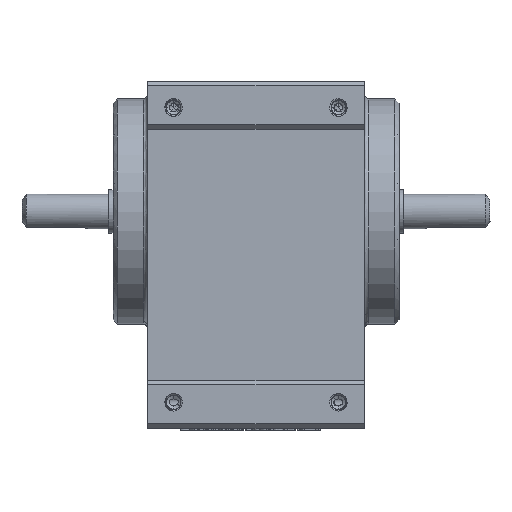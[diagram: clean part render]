
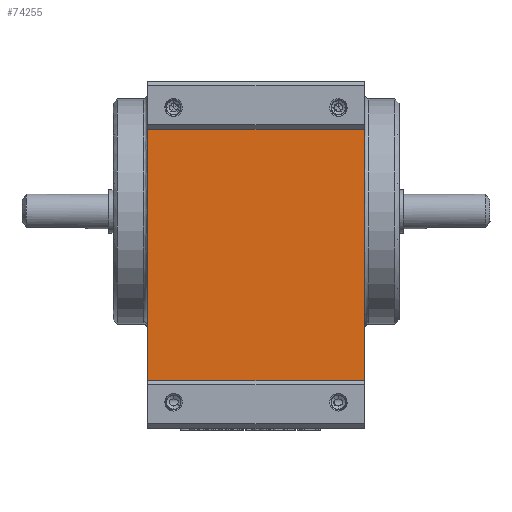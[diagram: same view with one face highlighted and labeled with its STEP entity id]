
A CAD part, front view. The second image highlights one B-rep face of the part: STEP entity #74255.
In plain terms, the highlighted planar face has unit normal (0, -1, 0).
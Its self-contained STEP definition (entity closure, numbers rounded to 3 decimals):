
#1307 = EDGE_CURVE ( 'NONE', #38922, #23412, #68288, .T. ) ;
#3191 = VECTOR ( 'NONE', #55463, 1000. ) ;
#5047 = EDGE_CURVE ( 'NONE', #27449, #38922, #61570, .T. ) ;
#8101 = CARTESIAN_POINT ( 'NONE',  ( 25., -32., 19. ) ) ;
#17216 = CARTESIAN_POINT ( 'NONE',  ( -25., -32., 19. ) ) ;
#19763 = VECTOR ( 'NONE', #25440, 1000. ) ;
#20024 = LINE ( 'NONE', #92798, #56884 ) ;
#23412 = VERTEX_POINT ( 'NONE', #49739 ) ;
#23853 = DIRECTION ( 'NONE',  ( 0., 0., 1. ) ) ;
#25440 = DIRECTION ( 'NONE',  ( -1., 0., 0. ) ) ;
#27287 = DIRECTION ( 'NONE',  ( 0., 0., -1. ) ) ;
#27449 = VERTEX_POINT ( 'NONE', #8101 ) ;
#30847 = CARTESIAN_POINT ( 'NONE',  ( 25., -32., -39. ) ) ;
#31278 = EDGE_CURVE ( 'NONE', #50719, #27449, #37484, .T. ) ;
#33829 = EDGE_CURVE ( 'NONE', #23412, #50719, #20024, .T. ) ;
#36875 = EDGE_LOOP ( 'NONE', ( #41040, #82164, #53344, #50433 ) ) ;
#37484 = LINE ( 'NONE', #48817, #76744 ) ;
#38922 = VERTEX_POINT ( 'NONE', #87135 ) ;
#40039 = AXIS2_PLACEMENT_3D ( 'NONE', #66400, #74286, #27287 ) ;
#41040 = ORIENTED_EDGE ( 'NONE', *, *, #5047, .T. ) ;
#48817 = CARTESIAN_POINT ( 'NONE',  ( 25., -32., -39. ) ) ;
#49739 = CARTESIAN_POINT ( 'NONE',  ( -25., -32., -39. ) ) ;
#49939 = FACE_OUTER_BOUND ( 'NONE', #36875, .T. ) ;
#50433 = ORIENTED_EDGE ( 'NONE', *, *, #31278, .T. ) ;
#50719 = VERTEX_POINT ( 'NONE', #30847 ) ;
#53344 = ORIENTED_EDGE ( 'NONE', *, *, #33829, .T. ) ;
#54101 = DIRECTION ( 'NONE',  ( 1., 0., 0. ) ) ;
#55463 = DIRECTION ( 'NONE',  ( 0., 0., -1. ) ) ;
#56884 = VECTOR ( 'NONE', #54101, 1000. ) ;
#61570 = LINE ( 'NONE', #17216, #19763 ) ;
#65730 = PLANE ( 'NONE',  #40039 ) ;
#66400 = CARTESIAN_POINT ( 'NONE',  ( -25., -32., -39. ) ) ;
#68288 = LINE ( 'NONE', #94530, #3191 ) ;
#74255 = ADVANCED_FACE ( 'NONE', ( #49939 ), #65730, .T. ) ;
#74286 = DIRECTION ( 'NONE',  ( 0., -1., 0. ) ) ;
#76744 = VECTOR ( 'NONE', #23853, 1000. ) ;
#82164 = ORIENTED_EDGE ( 'NONE', *, *, #1307, .T. ) ;
#87135 = CARTESIAN_POINT ( 'NONE',  ( -25., -32., 19. ) ) ;
#92798 = CARTESIAN_POINT ( 'NONE',  ( -25., -32., -39. ) ) ;
#94530 = CARTESIAN_POINT ( 'NONE',  ( -25., -32., -39. ) ) ;
